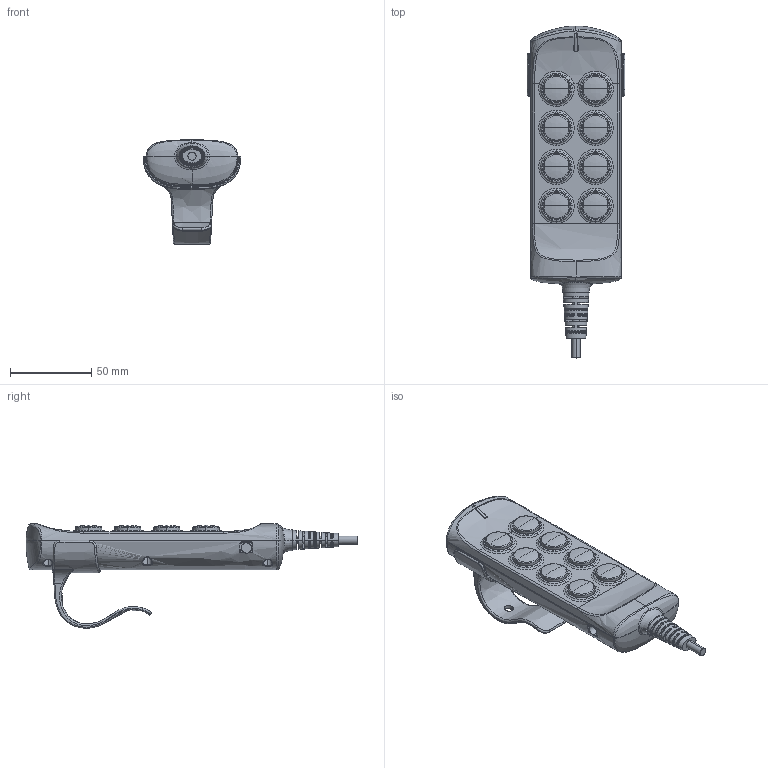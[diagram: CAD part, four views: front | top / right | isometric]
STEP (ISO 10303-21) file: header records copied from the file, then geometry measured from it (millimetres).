
FILE_DESCRIPTION (( 'STEP AP203' ), '1' );
FILE_NAME ('3D_TH17.stp', '2014-03-04T05:55:29', ( '' ), ( '' ), 'SwSTEP 2.0', 'SolidWorks 2010', '' );
FILE_SCHEMA (( 'CONFIG_CONTROL_DESIGN' ));
Length unit declared in the file: millimetre
Products named in the file (1): 3D_TH17
Bounding box: 59.97 x 204.04 x 64.12 mm (x, y, z)
Volume: 202429 mm3; surface area: 55517.9 mm2
Topology: 10 solids, 10 shells, 635 faces, 1534 edges, 920 vertices
Faces by surface type: bspline 333, cylinder 195, plane 99, cone 8
Entity records: 48985 total; most frequent: CARTESIAN_POINT 37096, ORIENTED_EDGE 3020, EDGE_CURVE 1510, DIRECTION 1460, VERTEX_POINT 920, B_SPLINE_CURVE_WITH_KNOTS 914, EDGE_LOOP 664, FACE_OUTER_BOUND 635
